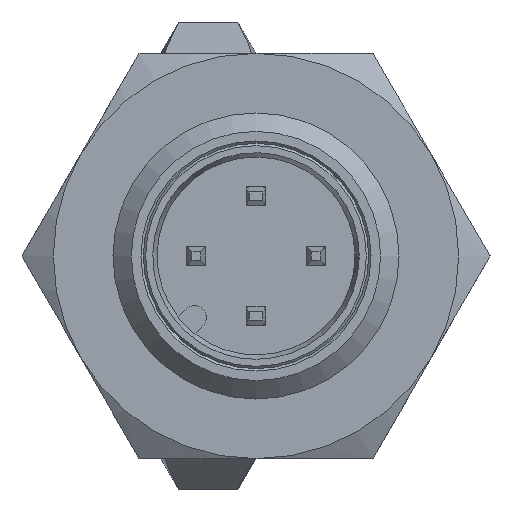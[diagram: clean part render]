
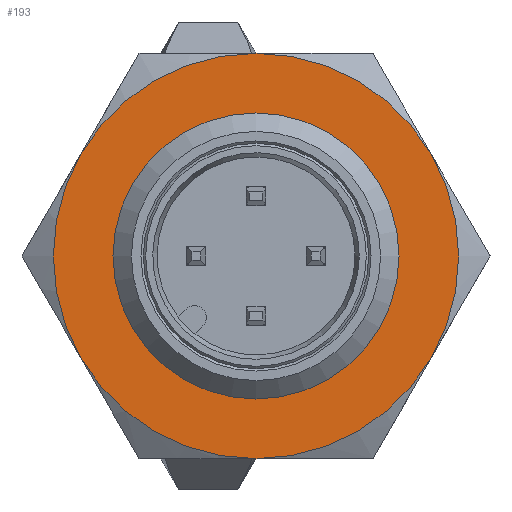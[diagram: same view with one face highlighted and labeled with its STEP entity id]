
A CAD part, left-side view. The second image highlights one B-rep face of the part: STEP entity #193.
In plain terms, the highlighted planar face has unit normal (-1, 0, 0) as drawn and (0, -1, 0) by its records, which use the part's own axes.
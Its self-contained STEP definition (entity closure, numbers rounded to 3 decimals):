
#193 = ADVANCED_FACE( '', ( #322, #323 ), #324, .F. );
#322 = FACE_BOUND( '', #572, .T. );
#323 = FACE_OUTER_BOUND( '', #573, .T. );
#324 = PLANE( '', #574 );
#572 = EDGE_LOOP( '', ( #896 ) );
#573 = EDGE_LOOP( '', ( #897, #898, #899, #900, #901, #902 ) );
#574 = AXIS2_PLACEMENT_3D( '', #903, #904, #905 );
#896 = ORIENTED_EDGE( '', *, *, #1703, .F. );
#897 = ORIENTED_EDGE( '', *, *, #1699, .F. );
#898 = ORIENTED_EDGE( '', *, *, #1701, .F. );
#899 = ORIENTED_EDGE( '', *, *, #1704, .F. );
#900 = ORIENTED_EDGE( '', *, *, #1705, .F. );
#901 = ORIENTED_EDGE( '', *, *, #1700, .F. );
#902 = ORIENTED_EDGE( '', *, *, #1697, .F. );
#903 = CARTESIAN_POINT( '', ( 8.5, 0., 14.722 ) );
#904 = DIRECTION( '', ( 0., 1., 0. ) );
#905 = DIRECTION( '', ( 0., 0., 1. ) );
#1697 = EDGE_CURVE( '', #1970, #1963, #1987, .T. );
#1699 = EDGE_CURVE( '', #1988, #1970, #1990, .T. );
#1700 = EDGE_CURVE( '', #1963, #1984, #1991, .T. );
#1701 = EDGE_CURVE( '', #1948, #1988, #1992, .T. );
#1703 = EDGE_CURVE( '', #1994, #1994, #1995, .T. );
#1704 = EDGE_CURVE( '', #1939, #1948, #1996, .T. );
#1705 = EDGE_CURVE( '', #1984, #1939, #1997, .T. );
#1939 = VERTEX_POINT( '', #2398 );
#1948 = VERTEX_POINT( '', #2432 );
#1963 = VERTEX_POINT( '', #2478 );
#1970 = VERTEX_POINT( '', #2505 );
#1984 = VERTEX_POINT( '', #2541 );
#1987 = CIRCLE( '', #2554, 8.5 );
#1988 = VERTEX_POINT( '', #2555 );
#1990 = CIRCLE( '', #2562, 8.5 );
#1991 = CIRCLE( '', #2563, 8.5 );
#1992 = CIRCLE( '', #2564, 8.5 );
#1994 = VERTEX_POINT( '', #2571 );
#1995 = CIRCLE( '', #2572, 5.459 );
#1996 = CIRCLE( '', #2573, 8.5 );
#1997 = CIRCLE( '', #2574, 8.5 );
#2398 = CARTESIAN_POINT( '', ( -4.25, 0., 7.361 ) );
#2432 = CARTESIAN_POINT( '', ( 4.25, 0., 7.361 ) );
#2478 = CARTESIAN_POINT( '', ( -4.25, 0., -7.361 ) );
#2505 = CARTESIAN_POINT( '', ( 4.25, 0., -7.361 ) );
#2541 = CARTESIAN_POINT( '', ( -8.5, 0., 0. ) );
#2554 = AXIS2_PLACEMENT_3D( '', #3149, #3150, #3151 );
#2555 = CARTESIAN_POINT( '', ( 8.5, 0., 0. ) );
#2562 = AXIS2_PLACEMENT_3D( '', #3152, #3153, #3154 );
#2563 = AXIS2_PLACEMENT_3D( '', #3155, #3156, #3157 );
#2564 = AXIS2_PLACEMENT_3D( '', #3158, #3159, #3160 );
#2571 = CARTESIAN_POINT( '', ( 5.459, 0., 0. ) );
#2572 = AXIS2_PLACEMENT_3D( '', #3161, #3162, #3163 );
#2573 = AXIS2_PLACEMENT_3D( '', #3164, #3165, #3166 );
#2574 = AXIS2_PLACEMENT_3D( '', #3167, #3168, #3169 );
#3149 = CARTESIAN_POINT( '', ( 0., 0., 0. ) );
#3150 = DIRECTION( '', ( 0., 1., 0. ) );
#3151 = DIRECTION( '', ( 0., 0., 1. ) );
#3152 = CARTESIAN_POINT( '', ( 0., 0., 0. ) );
#3153 = DIRECTION( '', ( 0., 1., 0. ) );
#3154 = DIRECTION( '', ( 0., 0., 1. ) );
#3155 = CARTESIAN_POINT( '', ( 0., 0., 0. ) );
#3156 = DIRECTION( '', ( 0., 1., 0. ) );
#3157 = DIRECTION( '', ( 0., 0., 1. ) );
#3158 = CARTESIAN_POINT( '', ( 0., 0., 0. ) );
#3159 = DIRECTION( '', ( 0., 1., 0. ) );
#3160 = DIRECTION( '', ( 0., 0., 1. ) );
#3161 = CARTESIAN_POINT( '', ( 0., 0., 0. ) );
#3162 = DIRECTION( '', ( 0., -1., 0. ) );
#3163 = DIRECTION( '', ( 1., 0., 0. ) );
#3164 = CARTESIAN_POINT( '', ( 0., 0., 0. ) );
#3165 = DIRECTION( '', ( 0., 1., 0. ) );
#3166 = DIRECTION( '', ( 0., 0., 1. ) );
#3167 = CARTESIAN_POINT( '', ( 0., 0., 0. ) );
#3168 = DIRECTION( '', ( 0., 1., 0. ) );
#3169 = DIRECTION( '', ( 0., 0., 1. ) );
